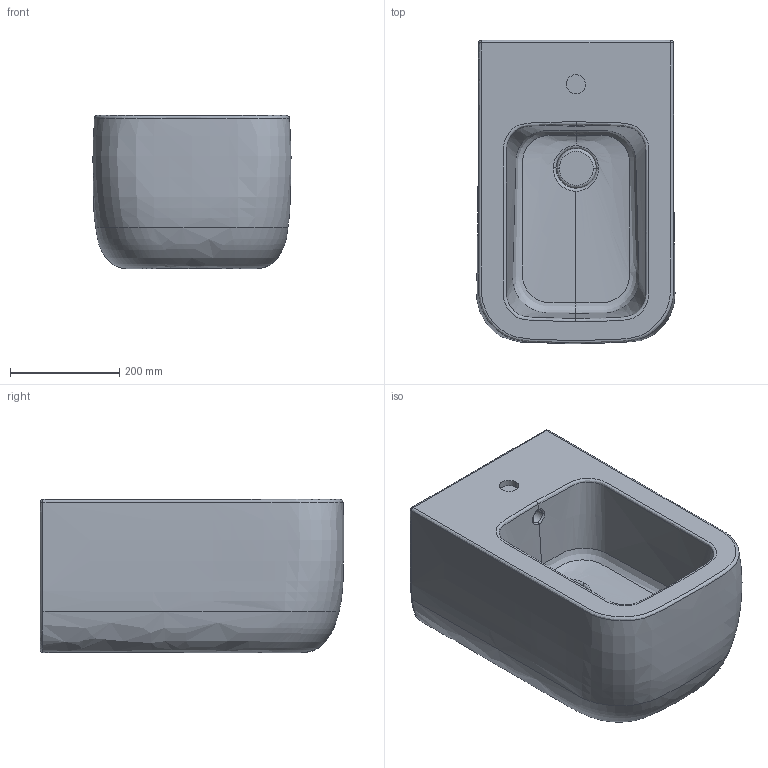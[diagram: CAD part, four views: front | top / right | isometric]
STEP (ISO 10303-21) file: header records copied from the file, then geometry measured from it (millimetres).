
FILE_DESCRIPTION(/* description */ (''),/* implementation_level */ '2;1');
FILE_NAME(/* name */ 'SDRBID~1',/* time_stamp */ '2024-05-17T12:56:51+02:00',/* author */ (''),/* organization */ (''),/* preprocessor_version */ 'ST-DEVELOPER v15',/* originating_system */ '',/* authorisation */ '');
FILE_SCHEMA (('AUTOMOTIVE_DESIGN'));
Length unit declared in the file: millimetre
Products named in the file (1): Document
Bounding box: 361.78 x 554.39 x 280 mm (x, y, z)
Volume: 39665916.9 mm3; surface area: 968029.6 mm2
Topology: 2 solids, 2 shells, 42 faces, 92 edges, 54 vertices
Faces by surface type: bspline 34, plane 8
Entity records: 9911 total; most frequent: CARTESIAN_POINT 9372, ORIENTED_EDGE 180, EDGE_CURVE 90, VERTEX_POINT 54, EDGE_LOOP 44, ADVANCED_FACE 42, FACE_OUTER_BOUND 42, B_SPLINE_CURVE_WITH_KNOTS 24
